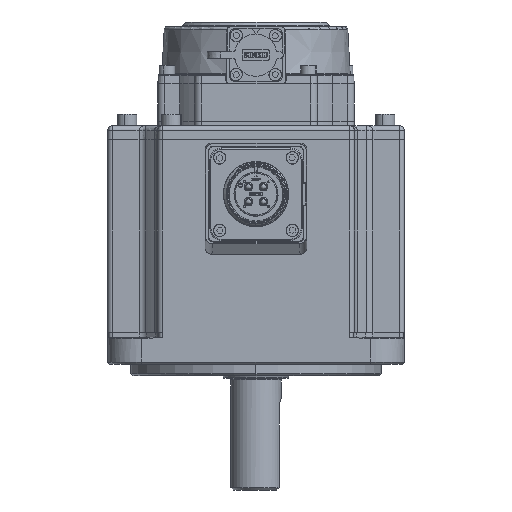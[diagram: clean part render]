
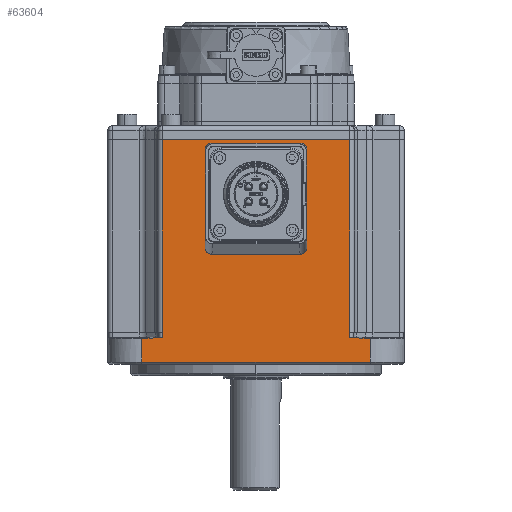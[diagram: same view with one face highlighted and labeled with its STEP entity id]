
A CAD part, left-side view. The second image highlights one B-rep face of the part: STEP entity #63604.
In plain terms, the highlighted planar face has unit normal (-1, 0, 0).
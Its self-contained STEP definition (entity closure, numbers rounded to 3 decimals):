
#1054 = EDGE_CURVE ( 'NONE', #82653, #101158, #87815, .T. ) ;
#3273 = VECTOR ( 'NONE', #95132, 1000. ) ;
#3977 = ORIENTED_EDGE ( 'NONE', *, *, #61038, .F. ) ;
#4286 = DIRECTION ( 'NONE',  ( 0., 0., -1. ) ) ;
#7072 = DIRECTION ( 'NONE',  ( 1., 0., 0. ) ) ;
#8030 = LINE ( 'NONE', #32955, #60769 ) ;
#8256 = VECTOR ( 'NONE', #4286, 1000. ) ;
#9247 = CARTESIAN_POINT ( 'NONE',  ( -65., 50., -56.75 ) ) ;
#10977 = ORIENTED_EDGE ( 'NONE', *, *, #81231, .F. ) ;
#11524 = LINE ( 'NONE', #95215, #19996 ) ;
#14988 = CARTESIAN_POINT ( 'NONE',  ( -65., -43., 40.75 ) ) ;
#19996 = VECTOR ( 'NONE', #71355, 1000. ) ;
#22980 = PLANE ( 'NONE',  #76778 ) ;
#23102 = CARTESIAN_POINT ( 'NONE',  ( -65., 41.035, -46.094 ) ) ;
#25654 = VECTOR ( 'NONE', #75077, 1000. ) ;
#27823 = EDGE_CURVE ( 'NONE', #104394, #68221, #79213, .T. ) ;
#32955 = CARTESIAN_POINT ( 'NONE',  ( -65., -43., 40.75 ) ) ;
#34404 = EDGE_CURVE ( 'NONE', #88746, #55184, #93769, .T. ) ;
#35034 = CARTESIAN_POINT ( 'NONE',  ( -65., -50., -56.75 ) ) ;
#36023 = EDGE_LOOP ( 'NONE', ( #70948, #39926, #3977, #36283, #81876, #64043, #10977, #54268, #89404, #76538 ) ) ;
#36118 = CARTESIAN_POINT ( 'NONE',  ( -65., -41.035, 40.75 ) ) ;
#36283 = ORIENTED_EDGE ( 'NONE', *, *, #53832, .T. ) ;
#39340 = DIRECTION ( 'NONE',  ( 0., -1., 0. ) ) ;
#39404 = DIRECTION ( 'NONE',  ( 0., 1., 0. ) ) ;
#39926 = ORIENTED_EDGE ( 'NONE', *, *, #73760, .T. ) ;
#40305 = VERTEX_POINT ( 'NONE', #36118 ) ;
#40385 = VERTEX_POINT ( 'NONE', #53044 ) ;
#40394 = CARTESIAN_POINT ( 'NONE',  ( -65., -44.464, -44.627 ) ) ;
#42801 = LINE ( 'NONE', #84610, #25654 ) ;
#46530 = CARTESIAN_POINT ( 'NONE',  ( -65., -50., -56.75 ) ) ;
#48338 = LINE ( 'NONE', #40394, #74857 ) ;
#48485 = VERTEX_POINT ( 'NONE', #23102 ) ;
#49760 = LINE ( 'NONE', #58749, #78498 ) ;
#50165 = LINE ( 'NONE', #59711, #81229 ) ;
#53044 = CARTESIAN_POINT ( 'NONE',  ( -65., 50., -46.247 ) ) ;
#53625 = EDGE_CURVE ( 'NONE', #88746, #40305, #8030, .T. ) ;
#53832 = EDGE_CURVE ( 'NONE', #40385, #82653, #86760, .T. ) ;
#54268 = ORIENTED_EDGE ( 'NONE', *, *, #27823, .T. ) ;
#55184 = VERTEX_POINT ( 'NONE', #60070 ) ;
#57851 = DIRECTION ( 'NONE',  ( 0., -1., 0.017 ) ) ;
#58749 = CARTESIAN_POINT ( 'NONE',  ( -65., -50., 40.75 ) ) ;
#59711 = CARTESIAN_POINT ( 'NONE',  ( -65., -41.035, 40.75 ) ) ;
#60070 = CARTESIAN_POINT ( 'NONE',  ( -65., 41.035, -43.75 ) ) ;
#60769 = VECTOR ( 'NONE', #39340, 1000. ) ;
#61038 = EDGE_CURVE ( 'NONE', #40385, #48485, #48338, .T. ) ;
#63604 = ADVANCED_FACE ( 'NONE', ( #95562 ), #22980, .F. ) ;
#64043 = ORIENTED_EDGE ( 'NONE', *, *, #65124, .T. ) ;
#65124 = EDGE_CURVE ( 'NONE', #101158, #99577, #49760, .T. ) ;
#68221 = VERTEX_POINT ( 'NONE', #81623 ) ;
#70747 = CARTESIAN_POINT ( 'NONE',  ( -65., -41.035, 40.75 ) ) ;
#70948 = ORIENTED_EDGE ( 'NONE', *, *, #34404, .T. ) ;
#71355 = DIRECTION ( 'NONE',  ( 0., 0., -1. ) ) ;
#73760 = EDGE_CURVE ( 'NONE', #55184, #48485, #11524, .T. ) ;
#74057 = VECTOR ( 'NONE', #87762, 1000. ) ;
#74857 = VECTOR ( 'NONE', #57851, 1000. ) ;
#75077 = DIRECTION ( 'NONE',  ( 0., -1., -0.018 ) ) ;
#75678 = DIRECTION ( 'NONE',  ( 0., 0., 1. ) ) ;
#76538 = ORIENTED_EDGE ( 'NONE', *, *, #53625, .F. ) ;
#76597 = CARTESIAN_POINT ( 'NONE',  ( -65., -41.035, -46.096 ) ) ;
#76616 = EDGE_CURVE ( 'NONE', #68221, #40305, #50165, .T. ) ;
#76778 = AXIS2_PLACEMENT_3D ( 'NONE', #14988, #7072, #39404 ) ;
#76962 = CARTESIAN_POINT ( 'NONE',  ( -65., -50., -46.256 ) ) ;
#78498 = VECTOR ( 'NONE', #75678, 1000. ) ;
#78823 = DIRECTION ( 'NONE',  ( 0., -1., 0. ) ) ;
#79213 = LINE ( 'NONE', #70747, #3273 ) ;
#81229 = VECTOR ( 'NONE', #92033, 1000. ) ;
#81231 = EDGE_CURVE ( 'NONE', #104394, #99577, #42801, .T. ) ;
#81623 = CARTESIAN_POINT ( 'NONE',  ( -65., -41.035, -43.75 ) ) ;
#81876 = ORIENTED_EDGE ( 'NONE', *, *, #1054, .T. ) ;
#82653 = VERTEX_POINT ( 'NONE', #9247 ) ;
#84610 = CARTESIAN_POINT ( 'NONE',  ( -65., -41.459, -46.104 ) ) ;
#86760 = LINE ( 'NONE', #101194, #8256 ) ;
#87762 = DIRECTION ( 'NONE',  ( 0., 0., -1. ) ) ;
#87815 = LINE ( 'NONE', #46530, #91683 ) ;
#88746 = VERTEX_POINT ( 'NONE', #95509 ) ;
#89404 = ORIENTED_EDGE ( 'NONE', *, *, #76616, .T. ) ;
#91683 = VECTOR ( 'NONE', #78823, 1000. ) ;
#92033 = DIRECTION ( 'NONE',  ( 0., 0., 1. ) ) ;
#93769 = LINE ( 'NONE', #96241, #74057 ) ;
#95132 = DIRECTION ( 'NONE',  ( 0., 0., 1. ) ) ;
#95215 = CARTESIAN_POINT ( 'NONE',  ( -65., 41.035, -43.75 ) ) ;
#95509 = CARTESIAN_POINT ( 'NONE',  ( -65., 41.035, 40.75 ) ) ;
#95562 = FACE_OUTER_BOUND ( 'NONE', #36023, .T. ) ;
#96241 = CARTESIAN_POINT ( 'NONE',  ( -65., 41.035, 40.75 ) ) ;
#99577 = VERTEX_POINT ( 'NONE', #76962 ) ;
#101158 = VERTEX_POINT ( 'NONE', #35034 ) ;
#101194 = CARTESIAN_POINT ( 'NONE',  ( -65., 50., 40.75 ) ) ;
#104394 = VERTEX_POINT ( 'NONE', #76597 ) ;
